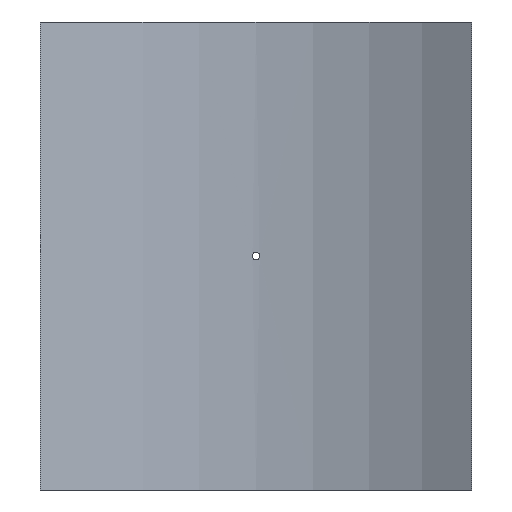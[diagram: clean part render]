
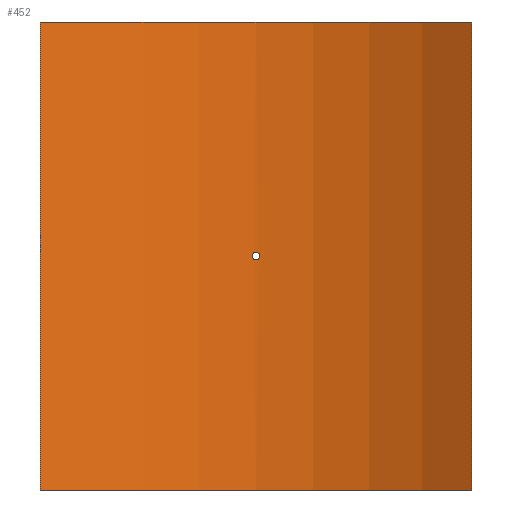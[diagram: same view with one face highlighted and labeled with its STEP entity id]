
A CAD part, front view. The second image highlights one B-rep face of the part: STEP entity #452.
In plain terms, the highlighted cylindrical face has radius 500 mm (diameter 1000 mm), a partial arc.
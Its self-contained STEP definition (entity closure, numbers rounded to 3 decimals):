
#19=B_SPLINE_CURVE_WITH_KNOTS('',3,(#788,#789,#790,#791,#792,#793,#794,
#795,#796,#797,#798,#799,#800,#801,#802,#803,#804,#805,#806,#807,#808,#809,
#810,#811,#812,#813,#814,#815,#816,#817,#818,#819,#820,#821),
 .UNSPECIFIED.,.T.,.F.,(4,2,2,2,2,2,2,2,2,2,2,2,2,2,2,2,4),(0.,0.181,
0.362,0.542,0.723,0.904,
1.085,1.266,1.446,1.627,1.808,
1.989,2.17,2.351,2.531,2.712,
2.893),.UNSPECIFIED.);
#43=LINE('',#1081,#62);
#44=LINE('',#1084,#63);
#62=VECTOR('',#661,10.);
#63=VECTOR('',#664,10.);
#76=CYLINDRICAL_SURFACE('',#530,500.);
#88=FACE_BOUND('',#167,.T.);
#127=FACE_OUTER_BOUND('',#166,.T.);
#166=EDGE_LOOP('',(#405,#406,#407,#408));
#167=EDGE_LOOP('',(#409));
#201=CIRCLE('',#529,500.);
#202=CIRCLE('',#531,500.);
#219=VERTEX_POINT('',#786);
#242=VERTEX_POINT('',#1074);
#243=VERTEX_POINT('',#1076);
#244=VERTEX_POINT('',#1080);
#245=VERTEX_POINT('',#1082);
#267=EDGE_CURVE('',#219,#219,#19,.T.);
#299=EDGE_CURVE('',#242,#243,#201,.T.);
#301=EDGE_CURVE('',#244,#242,#43,.T.);
#302=EDGE_CURVE('',#245,#244,#202,.T.);
#303=EDGE_CURVE('',#245,#243,#44,.T.);
#405=ORIENTED_EDGE('',*,*,#301,.F.);
#406=ORIENTED_EDGE('',*,*,#302,.F.);
#407=ORIENTED_EDGE('',*,*,#303,.T.);
#408=ORIENTED_EDGE('',*,*,#299,.F.);
#409=ORIENTED_EDGE('',*,*,#267,.T.);
#452=ADVANCED_FACE('',(#127,#88),#76,.F.);
#529=AXIS2_PLACEMENT_3D('',#1077,#656,#657);
#530=AXIS2_PLACEMENT_3D('',#1079,#659,#660);
#531=AXIS2_PLACEMENT_3D('',#1083,#662,#663);
#656=DIRECTION('center_axis',(0.,0.,1.));
#657=DIRECTION('ref_axis',(0.563,0.826,0.));
#659=DIRECTION('center_axis',(0.,0.,1.));
#660=DIRECTION('ref_axis',(0.563,0.826,0.));
#661=DIRECTION('',(0.,0.,-1.));
#662=DIRECTION('center_axis',(0.,0.,-1.));
#663=DIRECTION('ref_axis',(0.563,0.826,0.));
#664=DIRECTION('',(0.,0.,-1.));
#786=CARTESIAN_POINT('',(4.8,499.977,0.));
#788=CARTESIAN_POINT('Ctrl Pts',(4.8,499.977,0.));
#789=CARTESIAN_POINT('Ctrl Pts',(4.8,499.977,-0.603));
#790=CARTESIAN_POINT('Ctrl Pts',(4.68,499.978,-1.246));
#791=CARTESIAN_POINT('Ctrl Pts',(4.19,499.983,-2.428));
#792=CARTESIAN_POINT('Ctrl Pts',(3.82,499.986,-2.968));
#793=CARTESIAN_POINT('Ctrl Pts',(2.968,499.991,-3.82));
#794=CARTESIAN_POINT('Ctrl Pts',(2.428,499.994,-4.19));
#795=CARTESIAN_POINT('Ctrl Pts',(1.246,499.999,-4.68));
#796=CARTESIAN_POINT('Ctrl Pts',(0.603,500.,-4.8));
#797=CARTESIAN_POINT('Ctrl Pts',(-0.603,500.,-4.8));
#798=CARTESIAN_POINT('Ctrl Pts',(-1.246,499.999,-4.68));
#799=CARTESIAN_POINT('Ctrl Pts',(-2.428,499.994,-4.19));
#800=CARTESIAN_POINT('Ctrl Pts',(-2.968,499.991,-3.82));
#801=CARTESIAN_POINT('Ctrl Pts',(-3.82,499.986,-2.968));
#802=CARTESIAN_POINT('Ctrl Pts',(-4.19,499.983,-2.428));
#803=CARTESIAN_POINT('Ctrl Pts',(-4.68,499.978,-1.246));
#804=CARTESIAN_POINT('Ctrl Pts',(-4.8,499.977,-0.603));
#805=CARTESIAN_POINT('Ctrl Pts',(-4.8,499.977,0.603));
#806=CARTESIAN_POINT('Ctrl Pts',(-4.68,499.978,1.246));
#807=CARTESIAN_POINT('Ctrl Pts',(-4.19,499.983,2.428));
#808=CARTESIAN_POINT('Ctrl Pts',(-3.82,499.986,2.968));
#809=CARTESIAN_POINT('Ctrl Pts',(-2.968,499.991,3.82));
#810=CARTESIAN_POINT('Ctrl Pts',(-2.428,499.994,4.19));
#811=CARTESIAN_POINT('Ctrl Pts',(-1.246,499.999,4.68));
#812=CARTESIAN_POINT('Ctrl Pts',(-0.603,500.,4.8));
#813=CARTESIAN_POINT('Ctrl Pts',(0.603,500.,4.8));
#814=CARTESIAN_POINT('Ctrl Pts',(1.246,499.999,4.68));
#815=CARTESIAN_POINT('Ctrl Pts',(2.428,499.994,4.19));
#816=CARTESIAN_POINT('Ctrl Pts',(2.968,499.991,3.82));
#817=CARTESIAN_POINT('Ctrl Pts',(3.82,499.986,2.968));
#818=CARTESIAN_POINT('Ctrl Pts',(4.19,499.983,2.428));
#819=CARTESIAN_POINT('Ctrl Pts',(4.68,499.978,1.246));
#820=CARTESIAN_POINT('Ctrl Pts',(4.8,499.977,0.603));
#821=CARTESIAN_POINT('Ctrl Pts',(4.8,499.977,0.));
#1074=CARTESIAN_POINT('',(281.5,413.228,-305.));
#1076=CARTESIAN_POINT('',(-281.5,413.228,-305.));
#1077=CARTESIAN_POINT('Origin',(0.,0.,
-305.));
#1079=CARTESIAN_POINT('Origin',(0.,0.,
0.));
#1080=CARTESIAN_POINT('',(281.5,413.228,305.));
#1081=CARTESIAN_POINT('',(281.5,413.228,0.));
#1082=CARTESIAN_POINT('',(-281.5,413.228,305.));
#1083=CARTESIAN_POINT('Origin',(0.,0.,
305.));
#1084=CARTESIAN_POINT('',(-281.5,413.228,0.));
